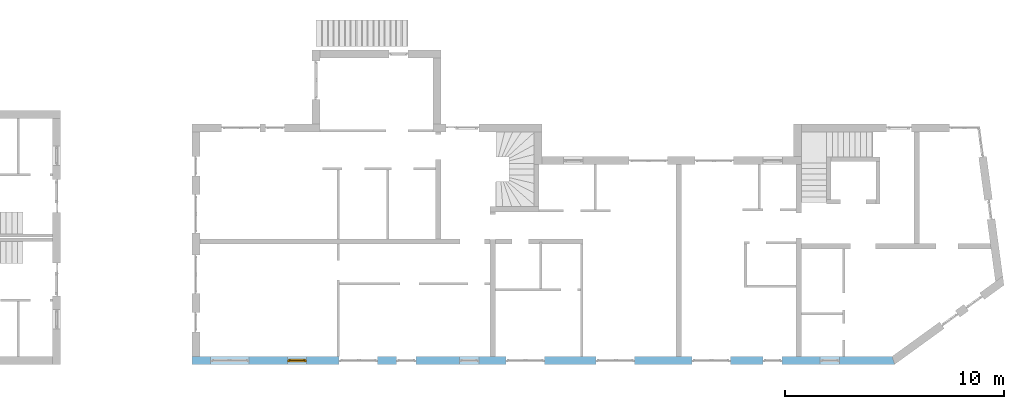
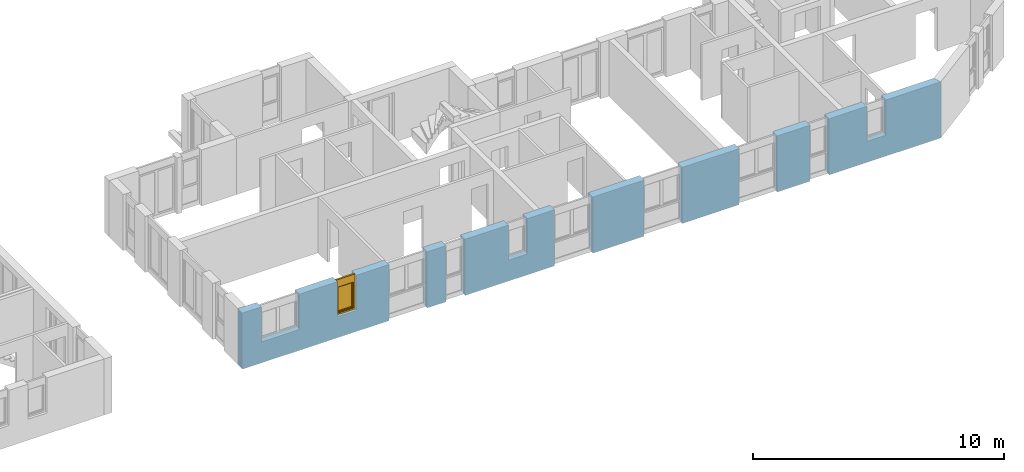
# One storey, part 30 of 41: 1 window, 10 openings, plus 1 element that does not belong to this part.
"""IFC2X3 building model written with IfcOpenShell, lengths in millimetres."""

from ifc_helpers import new_model, entity, si_unit, converted_unit, frame, frame_2d, origin, origin_with_axes, place, context, subcontext, project, spatial, polyline, rectangle, outline, extrude, faceted_brep, material, layer, layer_set, layer_usage, type_object, element, fill, save


model = new_model("IFC2X3")

# Units and contexts
model_context = context("Model", 3, precision=1e-05, world=origin())
body_context = subcontext(model_context, "Body", "Model", "MODEL_VIEW")
ifc_project = project(units=[si_unit("LENGTHUNIT", "METRE", prefix="MILLI"), converted_unit("PLANEANGLEUNIT", "DEGREE", entity("IfcPlaneAngleMeasure", 0.0174532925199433), si_unit("PLANEANGLEUNIT", "RADIAN"), dimensions=[0, 0, 0, 0, 0, 0, 0]), si_unit("AREAUNIT", "SQUARE_METRE"), si_unit("VOLUMEUNIT", "CUBIC_METRE")], contexts=[model_context])

# Building, storey
building_placement = place(None, origin())
building = spatial("IfcBuilding", under=ifc_project, at=building_placement, Name="Gebäude", CompositionType="ELEMENT")
storey_placement = place(building_placement, frame((0.0, 0.0, -200.0), z_axis=(0.0, 0.0, 1.0), x_axis=(1.0, 0.0, 0.0)))
storey = spatial("IfcBuildingStorey", under=building, at=storey_placement, Name="EG.- Grundriss", CompositionType="ELEMENT", Elevation=-200.0)

# Wall, openings, window
ifc_material_1 = material(Name="Poroton")
ifc_layer = layer(ifc_material_1, 365.0000000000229)
ifc_layer_set = layer_set([ifc_layer])
ifc_layer_usage = layer_usage(ifc_layer_set, "AXIS2", "POSITIVE", 0.0)
wall_placement = place(storey_placement, frame((148357.7928067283, 125274.8877324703, 0.0), z_axis=(0.0, 0.0, 1.0), x_axis=(1.0, -2.749268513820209e-11, 0.0)))
wall = element("IfcWallStandardCase", 1, at=wall_placement, inside=storey, material=ifc_layer_usage, Name="<Unnamed Element>", context=body_context, shape_type="SweptSolid", body=[
    extrude(outline(polyline([(0.0, 0.0), (32144.99999877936, 0.0), (32026.74038666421, 365.0000000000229), (-1.003483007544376e-08, 365.0), (0.0, 0.0)])), origin_with_axes(), (0.0, 0.0, 1.0), 2730.0),
])
opening_1_placement = place(wall_placement, frame((28740.29648749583, -1.103025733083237e-10, 1020.0), z_axis=(0.0, 1.0, 0.0), x_axis=(0.0, 0.0, 1.0)))
element("IfcOpeningElement", 2, at=opening_1_placement, cuts=wall, Name="Fensteröffnung", ObjectType="Opening", context=body_context, shape_type="SweptSolid", body=[
    extrude(rectangle(XDim=1710.0, YDim=885.0, at=frame_2d((855.0, 442.5), x_axis=(1.0, 0.0))), origin_with_axes(), (0.0, 0.0, 1.0), 365.0000000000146),
])
opening_2_placement = place(wall_placement, frame((26115.29648749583, -1.048456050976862e-10, 0.0), z_axis=(0.0, 1.0, 0.0), x_axis=(0.0, 0.0, 1.0)))
element("IfcOpeningElement", 3, at=opening_2_placement, cuts=wall, Name="Fensteröffnung", ObjectType="Opening", context=body_context, shape_type="SweptSolid", body=[
    extrude(rectangle(XDim=2730.0, YDim=885.0, at=frame_2d((1365.0, 442.5), x_axis=(1.0, 0.0))), origin_with_axes(), (0.0, 0.0, 1.0), 365.0000000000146),
])
opening_3_placement = place(wall_placement, frame((22865.29648749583, -7.937975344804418e-11, 0.0), z_axis=(0.0, 1.0, 0.0), x_axis=(0.0, 0.0, 1.0)))
element("IfcOpeningElement", 4, at=opening_3_placement, cuts=wall, Name="Fensteröffnung", ObjectType="Opening", context=body_context, shape_type="SweptSolid", body=[
    extrude(rectangle(XDim=2730.0, YDim=1760.0, at=frame_2d((1365.0, 880.0), x_axis=(1.0, 0.0))), origin_with_axes(), (0.0, 0.0, 1.0), 365.0000000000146),
])
opening_4_placement = place(wall_placement, frame((18490.51063065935, -4.984640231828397e-11, 0.0), z_axis=(0.0, 1.0, 0.0), x_axis=(0.0, 0.0, 1.0)))
element("IfcOpeningElement", 5, at=opening_4_placement, cuts=wall, Name="Fensteröffnung", ObjectType="Opening", context=body_context, shape_type="SweptSolid", body=[
    extrude(rectangle(XDim=2730.0, YDim=1760.0, at=frame_2d((1365.0, 880.0), x_axis=(1.0, 0.0))), origin_with_axes(), (0.0, 0.0, 1.0), 365.0000000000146),
])
opening_5_placement = place(wall_placement, frame((14365.26291871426, -7.302655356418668e-11, 0.0), z_axis=(0.0, 1.0, 0.0), x_axis=(0.0, 0.0, 1.0)))
element("IfcOpeningElement", 6, at=opening_5_placement, cuts=wall, Name="Fensteröffnung", ObjectType="Opening", context=body_context, shape_type="SweptSolid", body=[
    extrude(rectangle(XDim=2730.0, YDim=1760.0, at=frame_2d((1365.0, 880.0), x_axis=(1.0, 0.0))), origin_with_axes(), (0.0, 0.0, 1.0), 365.0000000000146),
])
opening_6_placement = place(wall_placement, frame((12240.0, -5.296897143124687e-11, 1020.0), z_axis=(0.0, 1.0, 0.0), x_axis=(0.0, 0.0, 1.0)))
element("IfcOpeningElement", 7, at=opening_6_placement, cuts=wall, Name="Fensteröffnung", ObjectType="Opening", context=body_context, shape_type="SweptSolid", body=[
    extrude(rectangle(XDim=1710.0, YDim=885.0, at=frame_2d((855.0, 442.5), x_axis=(1.0, 0.0))), origin_with_axes(), (0.0, 0.0, 1.0), 365.0000000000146),
])
opening_7_placement = place(wall_placement, frame((9365.0, -3.659806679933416e-11, 0.0), z_axis=(0.0, 1.0, 0.0), x_axis=(0.0, 0.0, 1.0)))
element("IfcOpeningElement", 8, at=opening_7_placement, cuts=wall, Name="Fensteröffnung", ObjectType="Opening", context=body_context, shape_type="SweptSolid", body=[
    extrude(rectangle(XDim=2730.0, YDim=885.0, at=frame_2d((1365.0, 442.5), x_axis=(1.0, 0.0))), origin_with_axes(), (0.0, 0.0, 1.0), 365.0000000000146),
])
opening_8_placement = place(wall_placement, frame((6740.0, -3.114109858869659e-11, 0.0), z_axis=(0.0, 1.0, 0.0), x_axis=(0.0, 0.0, 1.0)))
element("IfcOpeningElement", 9, at=opening_8_placement, cuts=wall, Name="Fensteröffnung", ObjectType="Opening", context=body_context, shape_type="SweptSolid", body=[
    extrude(rectangle(XDim=2730.0, YDim=1760.0, at=frame_2d((1365.0, 880.0), x_axis=(1.0, 0.0))), origin_with_axes(), (0.0, 0.0, 1.0), 365.0000000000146),
])
opening_9_placement = place(wall_placement, frame((4365.0, -7.494236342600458e-12, 1020.0), z_axis=(0.0, 1.0, 0.0), x_axis=(0.0, 0.0, 1.0)))
opening_9 = element("IfcOpeningElement", 10, at=opening_9_placement, cuts=wall, Name="Fensteröffnung", ObjectType="Opening", context=body_context, shape_type="SweptSolid", body=[
    extrude(rectangle(XDim=1710.0, YDim=885.0, at=frame_2d((855.0, 442.5), x_axis=(1.0, 0.0))), origin_with_axes(), (0.0, 0.0, 1.0), 365.0000000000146),
])
opening_10_placement = place(wall_placement, frame((865.0, -2.182787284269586e-13, 1020.0), z_axis=(0.0, 1.0, 0.0), x_axis=(0.0, 0.0, 1.0)))
element("IfcOpeningElement", 11, at=opening_10_placement, cuts=wall, Name="Fensteröffnung", ObjectType="Opening", context=body_context, shape_type="SweptSolid", body=[
    extrude(rectangle(XDim=1710.0, YDim=1760.0, at=frame_2d((854.9999999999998, 880.0), x_axis=(1.0, 0.0))), origin_with_axes(), (0.0, 0.0, 1.0), 365.0000000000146),
])
ifc_material_2 = material()
window_style = type_object("IfcWindowStyle", Name="Fenster", ConstructionType="NOTDEFINED", OperationType="USERDEFINED", ParameterTakesPrecedence=False, Sizeable=False)
window_placement = place(opening_9_placement, frame((0.0, 0.0, 0.0), z_axis=(1.0, 0.0, 0.0), x_axis=(0.0, 1.0, 0.0)))
window = element("IfcWindow", 12, at=window_placement, inside=storey, type_object=window_style, material=ifc_material_2, Name="Fenster", OverallHeight=1710.0, OverallWidth=885.0, context=body_context, shape_type="Brep", body=[
    faceted_brep([(-1.221113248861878e-08, 200.000000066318, 1710.0), (-1.221113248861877e-08, 200.0000000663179, -2.449293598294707e-15), (69.99999998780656, 200.0000000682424, -2.449293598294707e-15), (69.99999998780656, 200.0000000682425, 1710.0), (-1.001171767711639e-08, 120.0000000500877, 2.449293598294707e-15), (-1.00117176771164e-08, 120.0000000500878, 1710.0), (69.99999999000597, 120.0000000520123, 1710.0), (69.99999999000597, 120.0000000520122, 2.449293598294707e-15), (-1.221113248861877e-08, 200.0000000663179, -2.449293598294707e-15), (-1.221113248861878e-08, 200.000000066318, 1710.0), (-1.00117176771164e-08, 120.0000000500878, 1710.0), (-1.001171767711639e-08, 120.0000000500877, 2.449293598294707e-15), (69.99999998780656, 200.0000000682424, -2.449293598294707e-15), (-1.221113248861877e-08, 200.0000000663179, -2.449293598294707e-15), (-1.001171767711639e-08, 120.0000000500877, 2.449293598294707e-15), (69.99999999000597, 120.0000000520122, 2.449293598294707e-15), (69.99999998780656, 200.0000000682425, 1710.0), (69.99999998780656, 200.0000000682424, -2.449293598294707e-15), (69.99999999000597, 120.0000000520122, 2.449293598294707e-15), (69.99999999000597, 120.0000000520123, 1710.0), (-1.221113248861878e-08, 200.000000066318, 1710.0), (69.99999998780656, 200.0000000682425, 1710.0), (69.99999999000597, 120.0000000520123, 1710.0), (-1.00117176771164e-08, 120.0000000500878, 1710.0)], [[[0, 1, 2, 3]], [[4, 5, 6, 7]], [[8, 9, 10, 11]], [[12, 13, 14, 15]], [[16, 17, 18, 19]], [[20, 21, 22, 23]]], orient=[[False], [False], [False], [False], [False], [False]]),
    faceted_brep([(814.9999999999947, 200.0000000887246, 1710.0), (814.9999999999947, 200.0000000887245, -2.449293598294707e-15), (885.0000000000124, 200.0000000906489, -2.449293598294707e-15), (885.0000000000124, 200.0000000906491, 1710.0), (815.000000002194, 120.0000000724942, 2.449293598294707e-15), (815.000000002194, 120.0000000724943, 1710.0), (885.0000000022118, 120.0000000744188, 1710.0), (885.0000000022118, 120.0000000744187, 2.449293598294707e-15), (814.9999999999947, 200.0000000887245, -2.449293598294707e-15), (814.9999999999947, 200.0000000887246, 1710.0), (815.000000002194, 120.0000000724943, 1710.0), (815.000000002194, 120.0000000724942, 2.449293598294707e-15), (885.0000000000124, 200.0000000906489, -2.449293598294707e-15), (814.9999999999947, 200.0000000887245, -2.449293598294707e-15), (815.000000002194, 120.0000000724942, 2.449293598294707e-15), (885.0000000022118, 120.0000000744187, 2.449293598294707e-15), (885.0000000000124, 200.0000000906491, 1710.0), (885.0000000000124, 200.0000000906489, -2.449293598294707e-15), (885.0000000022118, 120.0000000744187, 2.449293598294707e-15), (885.0000000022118, 120.0000000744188, 1710.0), (814.9999999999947, 200.0000000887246, 1710.0), (885.0000000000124, 200.0000000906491, 1710.0), (885.0000000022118, 120.0000000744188, 1710.0), (815.000000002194, 120.0000000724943, 1710.0)], [[[0, 1, 2, 3]], [[4, 5, 6, 7]], [[8, 9, 10, 11]], [[12, 13, 14, 15]], [[16, 17, 18, 19]], [[20, 21, 22, 23]]], orient=[[False], [False], [False], [False], [False], [False]]),
    faceted_brep([(69.99999998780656, 200.0000000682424, 70.0), (69.99999998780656, 200.0000000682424, -2.449293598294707e-15), (814.9999999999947, 200.0000000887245, -2.449293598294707e-15), (814.9999999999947, 200.0000000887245, 70.0), (69.99999999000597, 120.0000000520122, 2.449293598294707e-15), (69.99999999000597, 120.0000000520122, 70.0), (815.000000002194, 120.0000000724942, 70.0), (815.000000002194, 120.0000000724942, 2.449293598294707e-15), (69.99999998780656, 200.0000000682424, -2.449293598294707e-15), (69.99999998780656, 200.0000000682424, 70.0), (69.99999999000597, 120.0000000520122, 70.0), (69.99999999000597, 120.0000000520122, 2.449293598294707e-15), (814.9999999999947, 200.0000000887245, -2.449293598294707e-15), (69.99999998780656, 200.0000000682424, -2.449293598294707e-15), (69.99999999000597, 120.0000000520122, 2.449293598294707e-15), (815.000000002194, 120.0000000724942, 2.449293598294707e-15), (814.9999999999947, 200.0000000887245, 70.0), (814.9999999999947, 200.0000000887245, -2.449293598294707e-15), (815.000000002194, 120.0000000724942, 2.449293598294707e-15), (815.000000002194, 120.0000000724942, 70.0), (69.99999998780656, 200.0000000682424, 70.0), (814.9999999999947, 200.0000000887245, 70.0), (815.000000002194, 120.0000000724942, 70.0), (69.99999999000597, 120.0000000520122, 70.0)], [[[0, 1, 2, 3]], [[4, 5, 6, 7]], [[8, 9, 10, 11]], [[12, 13, 14, 15]], [[16, 17, 18, 19]], [[20, 21, 22, 23]]], orient=[[False], [False], [False], [False], [False], [False]]),
    faceted_brep([(69.99999998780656, 200.0000000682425, 1710.0), (69.99999998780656, 200.0000000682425, 1340.0), (814.9999999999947, 200.0000000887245, 1340.0), (814.9999999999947, 200.0000000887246, 1710.0), (69.99999999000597, 120.0000000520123, 1340.0), (69.99999999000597, 120.0000000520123, 1710.0), (815.000000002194, 120.0000000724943, 1710.0), (815.000000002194, 120.0000000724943, 1340.0), (69.99999998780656, 200.0000000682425, 1340.0), (69.99999998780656, 200.0000000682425, 1710.0), (69.99999999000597, 120.0000000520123, 1710.0), (69.99999999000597, 120.0000000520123, 1340.0), (814.9999999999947, 200.0000000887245, 1340.0), (69.99999998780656, 200.0000000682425, 1340.0), (69.99999999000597, 120.0000000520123, 1340.0), (815.000000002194, 120.0000000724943, 1340.0), (814.9999999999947, 200.0000000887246, 1710.0), (814.9999999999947, 200.0000000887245, 1340.0), (815.000000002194, 120.0000000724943, 1340.0), (815.000000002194, 120.0000000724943, 1710.0), (69.99999998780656, 200.0000000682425, 1710.0), (814.9999999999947, 200.0000000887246, 1710.0), (815.000000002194, 120.0000000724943, 1710.0), (69.99999999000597, 120.0000000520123, 1710.0)], [[[0, 1, 2, 3]], [[4, 5, 6, 7]], [[8, 9, 10, 11]], [[12, 13, 14, 15]], [[16, 17, 18, 19]], [[20, 21, 22, 23]]], orient=[[False], [False], [False], [False], [False], [False]]),
    faceted_brep([(49.9999999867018, 240.0000000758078, 1360.0), (49.9999999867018, 240.0000000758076, 50.0), (119.9999999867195, 240.0000000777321, 50.0), (119.9999999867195, 240.0000000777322, 1360.0), (49.99999998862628, 170.0000000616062, 50.00000000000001), (49.99999998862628, 170.0000000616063, 1360.0), (119.999999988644, 170.0000000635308, 1360.0), (119.999999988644, 170.0000000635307, 50.00000000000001), (49.9999999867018, 240.0000000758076, 50.0), (49.9999999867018, 240.0000000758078, 1360.0), (49.99999998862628, 170.0000000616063, 1360.0), (49.99999998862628, 170.0000000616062, 50.00000000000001), (119.9999999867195, 240.0000000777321, 50.0), (49.9999999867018, 240.0000000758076, 50.0), (49.99999998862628, 170.0000000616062, 50.00000000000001), (119.999999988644, 170.0000000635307, 50.00000000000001), (119.9999999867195, 240.0000000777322, 1360.0), (119.9999999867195, 240.0000000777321, 50.0), (119.999999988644, 170.0000000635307, 50.00000000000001), (119.999999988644, 170.0000000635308, 1360.0), (49.9999999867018, 240.0000000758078, 1360.0), (119.9999999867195, 240.0000000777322, 1360.0), (119.999999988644, 170.0000000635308, 1360.0), (49.99999998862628, 170.0000000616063, 1360.0)], [[[0, 1, 2, 3]], [[4, 5, 6, 7]], [[8, 9, 10, 11]], [[12, 13, 14, 15]], [[16, 17, 18, 19]], [[20, 21, 22, 23]]], orient=[[False], [False], [False], [False], [False], [False]]),
    faceted_brep([(764.9999999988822, 240.000000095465, 1360.0), (764.9999999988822, 240.0000000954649, 50.0), (834.9999999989, 240.0000000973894, 50.0), (834.9999999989, 240.0000000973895, 1360.0), (765.0000000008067, 170.0000000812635, 50.00000000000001), (765.0000000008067, 170.0000000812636, 1360.0), (835.0000000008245, 170.0000000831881, 1360.0), (835.0000000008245, 170.000000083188, 50.00000000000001), (764.9999999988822, 240.0000000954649, 50.0), (764.9999999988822, 240.000000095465, 1360.0), (765.0000000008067, 170.0000000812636, 1360.0), (765.0000000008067, 170.0000000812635, 50.00000000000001), (834.9999999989, 240.0000000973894, 50.0), (764.9999999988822, 240.0000000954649, 50.0), (765.0000000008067, 170.0000000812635, 50.00000000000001), (835.0000000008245, 170.000000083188, 50.00000000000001), (834.9999999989, 240.0000000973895, 1360.0), (834.9999999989, 240.0000000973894, 50.0), (835.0000000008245, 170.000000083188, 50.00000000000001), (835.0000000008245, 170.0000000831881, 1360.0), (764.9999999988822, 240.000000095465, 1360.0), (834.9999999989, 240.0000000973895, 1360.0), (835.0000000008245, 170.0000000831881, 1360.0), (765.0000000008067, 170.0000000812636, 1360.0)], [[[0, 1, 2, 3]], [[4, 5, 6, 7]], [[8, 9, 10, 11]], [[12, 13, 14, 15]], [[16, 17, 18, 19]], [[20, 21, 22, 23]]], orient=[[False], [False], [False], [False], [False], [False]]),
    faceted_brep([(119.9999999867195, 240.0000000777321, 120.0), (119.9999999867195, 240.0000000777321, 50.0), (764.9999999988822, 240.0000000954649, 50.0), (764.9999999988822, 240.0000000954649, 120.0), (119.999999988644, 170.0000000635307, 50.00000000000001), (119.999999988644, 170.0000000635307, 120.0), (765.0000000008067, 170.0000000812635, 120.0), (765.0000000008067, 170.0000000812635, 50.00000000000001), (119.9999999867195, 240.0000000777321, 50.0), (119.9999999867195, 240.0000000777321, 120.0), (119.999999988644, 170.0000000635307, 120.0), (119.999999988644, 170.0000000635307, 50.00000000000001), (764.9999999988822, 240.0000000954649, 50.0), (119.9999999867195, 240.0000000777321, 50.0), (119.999999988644, 170.0000000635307, 50.00000000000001), (765.0000000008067, 170.0000000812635, 50.00000000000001), (764.9999999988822, 240.0000000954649, 120.0), (764.9999999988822, 240.0000000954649, 50.0), (765.0000000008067, 170.0000000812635, 50.00000000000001), (765.0000000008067, 170.0000000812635, 120.0), (119.9999999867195, 240.0000000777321, 120.0), (764.9999999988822, 240.0000000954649, 120.0), (765.0000000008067, 170.0000000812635, 120.0), (119.999999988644, 170.0000000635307, 120.0)], [[[0, 1, 2, 3]], [[4, 5, 6, 7]], [[8, 9, 10, 11]], [[12, 13, 14, 15]], [[16, 17, 18, 19]], [[20, 21, 22, 23]]], orient=[[False], [False], [False], [False], [False], [False]]),
    faceted_brep([(119.9999999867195, 240.0000000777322, 1360.0), (119.9999999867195, 240.0000000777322, 1290.0), (764.9999999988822, 240.000000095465, 1290.0), (764.9999999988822, 240.000000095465, 1360.0), (119.999999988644, 170.0000000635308, 1290.0), (119.999999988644, 170.0000000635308, 1360.0), (765.0000000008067, 170.0000000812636, 1360.0), (765.0000000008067, 170.0000000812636, 1290.0), (119.9999999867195, 240.0000000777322, 1290.0), (119.9999999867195, 240.0000000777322, 1360.0), (119.999999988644, 170.0000000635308, 1360.0), (119.999999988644, 170.0000000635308, 1290.0), (764.9999999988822, 240.000000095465, 1290.0), (119.9999999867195, 240.0000000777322, 1290.0), (119.999999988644, 170.0000000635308, 1290.0), (765.0000000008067, 170.0000000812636, 1290.0), (764.9999999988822, 240.000000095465, 1360.0), (764.9999999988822, 240.000000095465, 1290.0), (765.0000000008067, 170.0000000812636, 1290.0), (765.0000000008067, 170.0000000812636, 1360.0), (119.9999999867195, 240.0000000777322, 1360.0), (764.9999999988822, 240.000000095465, 1360.0), (765.0000000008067, 170.0000000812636, 1360.0), (119.999999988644, 170.0000000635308, 1360.0)], [[[0, 1, 2, 3]], [[4, 5, 6, 7]], [[8, 9, 10, 11]], [[12, 13, 14, 15]], [[16, 17, 18, 19]], [[20, 21, 22, 23]]], orient=[[False], [False], [False], [False], [False], [False]]),
    faceted_brep([(119.9999999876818, 205.0000000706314, 120.0), (764.9999999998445, 205.0000000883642, 120.0), (764.9999999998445, 205.0000000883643, 1290.0), (119.9999999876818, 205.0000000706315, 1290.0), (119.9999999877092, 204.0000000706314, 120.0), (119.9999999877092, 204.0000000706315, 1290.0), (764.999999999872, 204.0000000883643, 1290.0), (764.999999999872, 204.0000000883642, 120.0), (119.9999999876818, 205.0000000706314, 120.0), (119.9999999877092, 204.0000000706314, 120.0), (764.999999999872, 204.0000000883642, 120.0), (764.9999999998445, 205.0000000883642, 120.0), (764.9999999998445, 205.0000000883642, 120.0), (764.999999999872, 204.0000000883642, 120.0), (764.999999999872, 204.0000000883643, 1290.0), (764.9999999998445, 205.0000000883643, 1290.0), (764.9999999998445, 205.0000000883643, 1290.0), (764.999999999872, 204.0000000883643, 1290.0), (119.9999999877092, 204.0000000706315, 1290.0), (119.9999999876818, 205.0000000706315, 1290.0), (119.9999999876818, 205.0000000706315, 1290.0), (119.9999999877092, 204.0000000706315, 1290.0), (119.9999999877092, 204.0000000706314, 120.0), (119.9999999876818, 205.0000000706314, 120.0)], [[[0, 1, 2, 3]], [[4, 5, 6, 7]], [[8, 9, 10, 11]], [[12, 13, 14, 15]], [[16, 17, 18, 19]], [[20, 21, 22, 23]]], orient=[[False], [False], [False], [False], [False], [False]]),
])
fill(opening_9, window)

save(model, "model.ifc")
